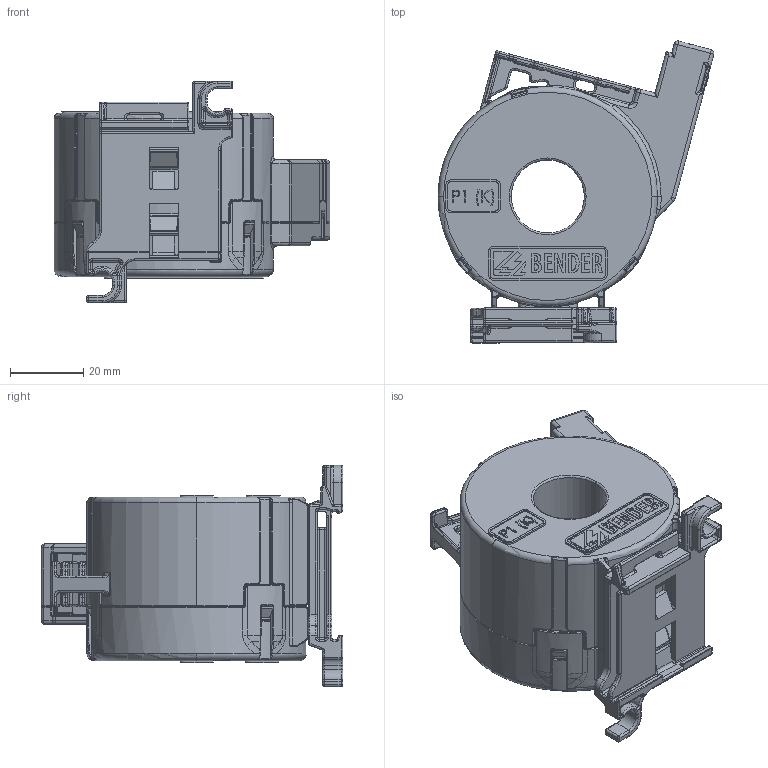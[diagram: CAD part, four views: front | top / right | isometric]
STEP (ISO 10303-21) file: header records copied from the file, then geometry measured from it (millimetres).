
FILE_DESCRIPTION (( 'STEP AP214' ), '1' );
FILE_NAME ('CTBC20.STEP', '2019-04-12T05:55:00', ( 'Administrator' ), ( '' ), 'SwSTEP 2.0', 'SolidWorks 2019', '' );
FILE_SCHEMA (( 'AUTOMOTIVE_DESIGN' ));
Length unit declared in the file: millimetre
Products named in the file (1): CTBC20
Bounding box: 75.44 x 82.51 x 60.5 mm (x, y, z)
Volume: 38041.6 mm3; surface area: 51317.6 mm2
Topology: 2 solids, 4 shells, 4333 faces, 10717 edges, 6275 vertices
Faces by surface type: cylinder 1225, plane 1191, bspline 1104, torus 602, sphere 198, cone 13
Entity records: 207850 total; most frequent: CARTESIAN_POINT 66069, ORIENTED_EDGE 20878, DIRECTION 17961, EDGE_CURVE 10439, AXIS2_PLACEMENT_3D 6661, VERTEX_POINT 6243, VECTOR 4639, LINE 4639
